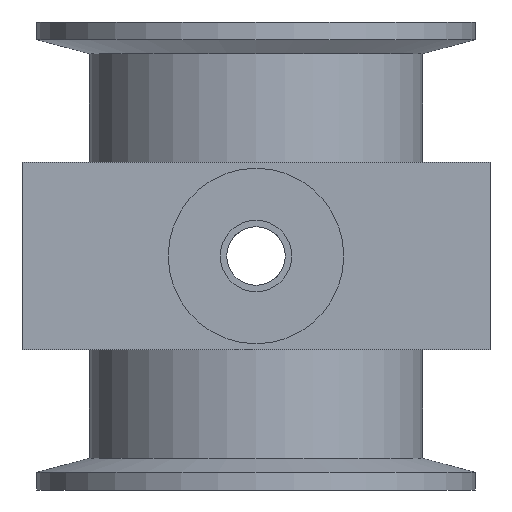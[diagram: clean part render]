
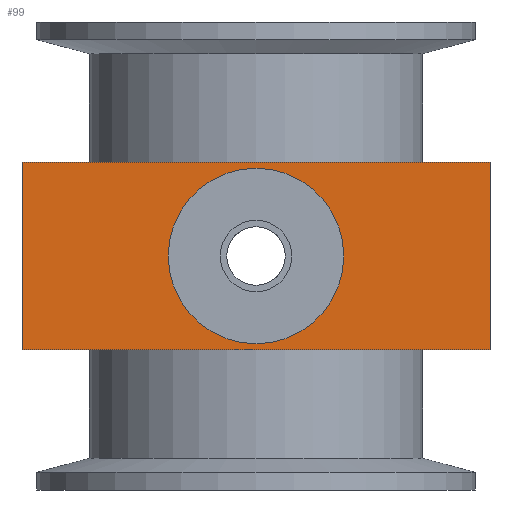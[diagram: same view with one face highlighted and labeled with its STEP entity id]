
A CAD part, left-side view. The second image highlights one B-rep face of the part: STEP entity #99.
In plain terms, the highlighted planar face has unit normal (-1, 0, 0).
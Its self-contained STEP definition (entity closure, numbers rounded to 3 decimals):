
#99 = ADVANCED_FACE( '', ( #224, #225 ), #226, .F. );
#224 = FACE_BOUND( '', #363, .T. );
#225 = FACE_OUTER_BOUND( '', #364, .T. );
#226 = PLANE( '', #365 );
#363 = EDGE_LOOP( '', ( #553 ) );
#364 = EDGE_LOOP( '', ( #554, #555, #556, #557 ) );
#365 = AXIS2_PLACEMENT_3D( '', #558, #559, #560 );
#553 = ORIENTED_EDGE( '', *, *, #656, .T. );
#554 = ORIENTED_EDGE( '', *, *, #645, .T. );
#555 = ORIENTED_EDGE( '', *, *, #672, .F. );
#556 = ORIENTED_EDGE( '', *, *, #652, .F. );
#557 = ORIENTED_EDGE( '', *, *, #685, .T. );
#558 = CARTESIAN_POINT( '', ( -40., 40., 16. ) );
#559 = DIRECTION( '', ( 1., 0., 0. ) );
#560 = DIRECTION( '', ( 0., 0., -1. ) );
#645 = EDGE_CURVE( '', #729, #731, #733, .T. );
#652 = EDGE_CURVE( '', #742, #744, #745, .T. );
#656 = EDGE_CURVE( '', #750, #750, #751, .T. );
#672 = EDGE_CURVE( '', #744, #731, #776, .T. );
#685 = EDGE_CURVE( '', #742, #729, #794, .T. );
#729 = VERTEX_POINT( '', #846 );
#731 = VERTEX_POINT( '', #849 );
#733 = LINE( '', #852, #853 );
#742 = VERTEX_POINT( '', #937 );
#744 = VERTEX_POINT( '', #940 );
#745 = LINE( '', #941, #942 );
#750 = VERTEX_POINT( '', #948 );
#751 = CIRCLE( '', #949, 7.5 );
#776 = LINE( '', #1049, #1050 );
#794 = LINE( '', #1068, #1069 );
#846 = CARTESIAN_POINT( '', ( -40., 40., -16. ) );
#849 = CARTESIAN_POINT( '', ( -40., -40., -16. ) );
#852 = CARTESIAN_POINT( '', ( -40., 40., -16. ) );
#853 = VECTOR( '', #1117, 1000. );
#937 = CARTESIAN_POINT( '', ( -40., 40., 16. ) );
#940 = CARTESIAN_POINT( '', ( -40., -40., 16. ) );
#941 = CARTESIAN_POINT( '', ( -40., 40., 16. ) );
#942 = VECTOR( '', #1125, 1000. );
#948 = CARTESIAN_POINT( '', ( -40., 0., -7.5 ) );
#949 = AXIS2_PLACEMENT_3D( '', #1130, #1131, #1132 );
#1049 = CARTESIAN_POINT( '', ( -40., -40., 16. ) );
#1050 = VECTOR( '', #1157, 1000. );
#1068 = CARTESIAN_POINT( '', ( -40., 40., 16. ) );
#1069 = VECTOR( '', #1173, 1000. );
#1117 = DIRECTION( '', ( 0., -1., 0. ) );
#1125 = DIRECTION( '', ( 0., -1., 0. ) );
#1130 = CARTESIAN_POINT( '', ( -40., 0., 0. ) );
#1131 = DIRECTION( '', ( 1., 0., 0. ) );
#1132 = DIRECTION( '', ( 0., 0., -1. ) );
#1157 = DIRECTION( '', ( 0., 0., -1. ) );
#1173 = DIRECTION( '', ( 0., 0., -1. ) );
